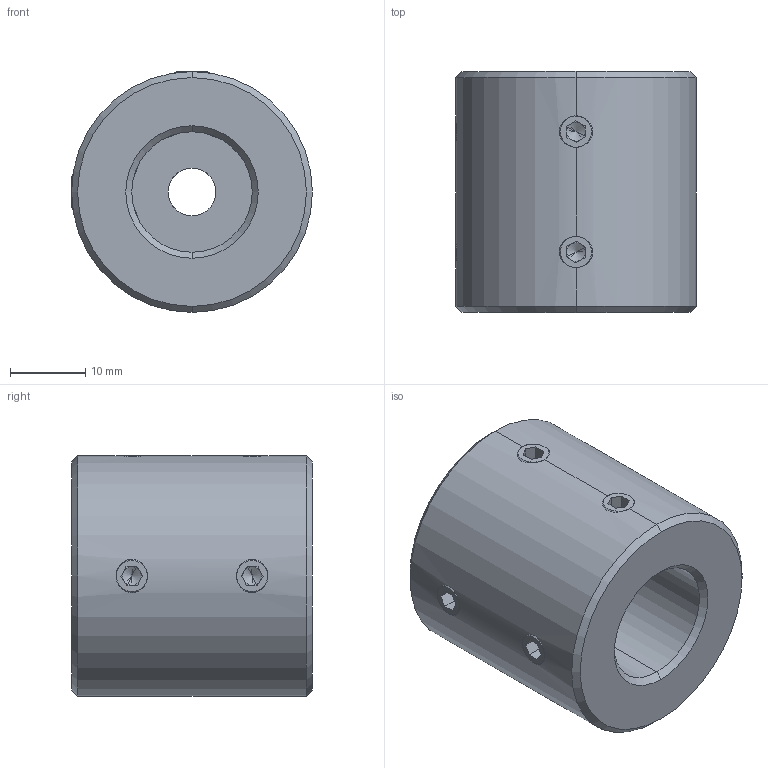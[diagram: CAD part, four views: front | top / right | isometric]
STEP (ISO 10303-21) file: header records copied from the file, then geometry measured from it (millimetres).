
FILE_DESCRIPTION (( 'STEP AP214' ), '1' );
FILE_NAME ('LL-D-D32L32-6.35-16½¨Ä£.STEP', '2022-07-22T11:23:14', ( '' ), ( '' ), 'SwSTEP 2.0', 'SolidWorks 2022', '' );
FILE_SCHEMA (( 'AUTOMOTIVE_DESIGN' ));
Length unit declared in the file: millimetre
Products named in the file (1): LL-D-D32L32-6.35-16膘耀
Bounding box: 32 x 32 x 32 mm (x, y, z)
Volume: 21735.6 mm3; surface area: 5997.3 mm2
Topology: 1 solids, 1 shells, 113 faces, 286 edges, 176 vertices
Faces by surface type: plane 59, cone 32, cylinder 22
Entity records: 3750 total; most frequent: CARTESIAN_POINT 1040, DIRECTION 558, ORIENTED_EDGE 556, EDGE_CURVE 278, AXIS2_PLACEMENT_3D 206, VERTEX_POINT 176, VECTOR 146, LINE 146
